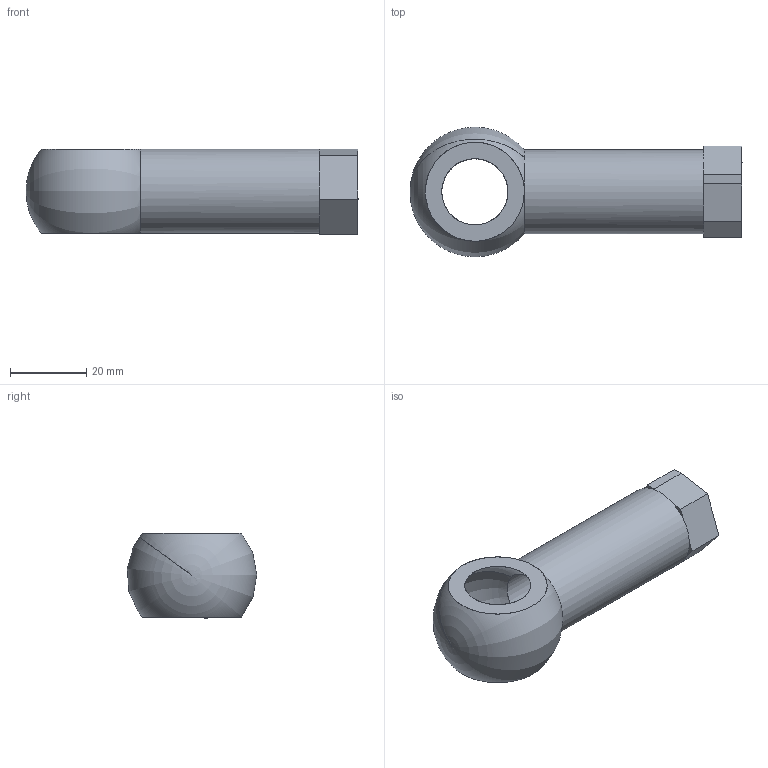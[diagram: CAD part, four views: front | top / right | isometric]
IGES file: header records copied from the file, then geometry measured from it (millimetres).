
Start section: File produced by SOLID-CONCEP (Trim Surfaces - Entity 144)
Global section: file name: Chape.igs; native system: SOLID-CONCEPT V.5.xx; preprocessor: SOLID-CONCEPT-IGES-OUT v2.00; date: 100220.123349; units: millimetre
Bounding box: 87 x 33.91 x 22.37 mm (x, y, z)
Surface area: 11342.3 mm2 (no closed solid volume)
Topology: 0 solids, 0 shells, 26 faces, 489 edges, 482 vertices
Faces by surface type: bspline 22, revolution 4
